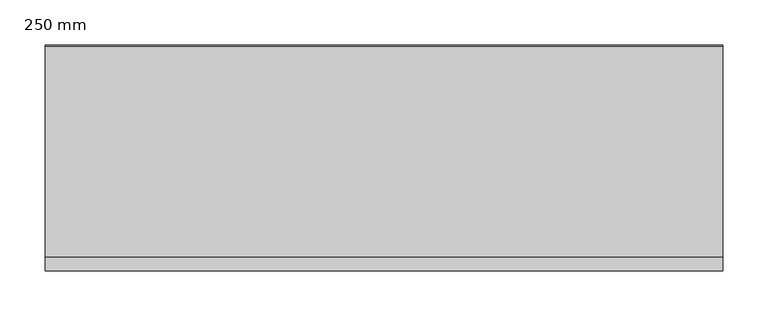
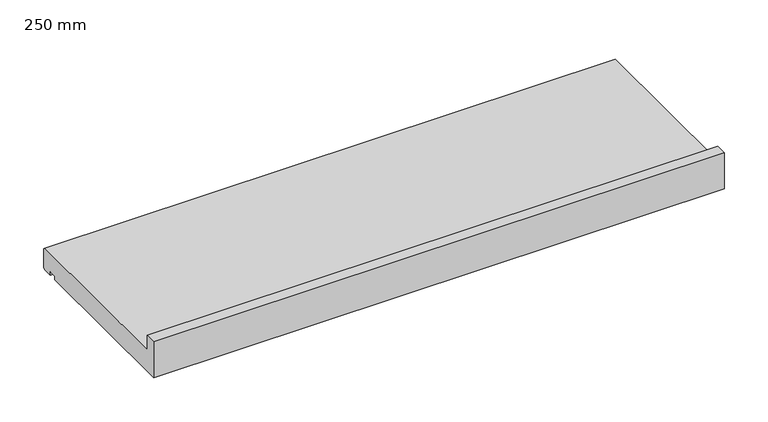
"""IFC4 building model written with IfcOpenShell, lengths in millimetres: proxy geometry, 400_35_NS_raamdorpel_natuursteen_klik : 250 mm."""

import ifcopenshell
import ifcopenshell.guid

model = None  # the IFC model being written
_history = None  # IfcOwnerHistory: only IFC2X3 demands one
_inside = {}  # id of a spatial element -> (the spatial element, [elements in it])
_under = {}  # id of a project, library or spatial element -> (it, [spatial elements below it])
_declared = {}  # id of a project -> (the project, [libraries it declares])
_typed = {}  # id of a type object -> (the type object, [elements of that type])
_made_of = {}  # id of a material, layer set ... -> (it, [elements and type objects made of it])


def new_model(schema):
    """Start an empty IFC model of exactly this schema.

    Asked for "IFC4X3", IfcOpenShell would pick the latest addendum, in which some entities
    have other attributes; the version numbers below select the first issue.
    IFC2X3 requires an IfcOwnerHistory on every rooted entity: one is made here for all.
    """
    global model, _history
    if schema == "IFC4X3":
        model = ifcopenshell.file(schema_version=(4, 3, 0, 0))
    else:
        model = ifcopenshell.file(schema=schema)
    _inside.clear()
    _under.clear()
    _declared.clear()
    _typed.clear()
    _made_of.clear()
    _history = None
    if model.schema == "IFC2X3":
        org = make("IfcOrganization", Name="unknown")
        user = make(
            "IfcPersonAndOrganization",
            ThePerson=make("IfcPerson", FamilyName="unknown"),
            TheOrganization=org,
        )
        app = make(
            "IfcApplication",
            ApplicationDeveloper=org,
            Version="unknown",
            ApplicationFullName="unknown",
            ApplicationIdentifier="unknown",
        )
        _history = make(
            "IfcOwnerHistory",
            OwningUser=user,
            OwningApplication=app,
            ChangeAction="ADDED",
            CreationDate=0,
        )
    return model


def make(cls, **values):
    """One entity of the class cls with the attributes given. An attribute that is None is left unset."""
    return model.create_entity(
        cls, **{name: value for name, value in values.items() if value is not None}
    )


def rooted(cls, **values):
    """An entity with a GlobalId (a new one), such as an element, a storey or a relation."""
    return make(cls, GlobalId=ifcopenshell.guid.new(), OwnerHistory=_history, **values)


def si_unit(unit_type, name, prefix=None):
    """IfcSIUnit, for example si_unit("LENGTHUNIT", "METRE", prefix="MILLI")."""
    return make("IfcSIUnit", UnitType=unit_type, Prefix=prefix, Name=name)


def assignment(units):
    """IfcUnitAssignment: the units of a project."""
    return None if units is None else make("IfcUnitAssignment", Units=units)


def point(xyz):
    """IfcCartesianPoint."""
    return None if xyz is None else make("IfcCartesianPoint", Coordinates=xyz)


def direction(xyz):
    """IfcDirection."""
    return None if xyz is None else make("IfcDirection", DirectionRatios=xyz)


def frame(location, z_axis=None, x_axis=None):
    """IfcAxis2Placement3D, a coordinate frame: its origin and axes. An axis left out is left unset."""
    return make(
        "IfcAxis2Placement3D",
        Location=point(location),
        Axis=direction(z_axis),
        RefDirection=direction(x_axis),
    )


def origin():
    """The frame at (0, 0, 0) with its axes left unset."""
    return frame((0.0, 0.0, 0.0))


def place(relative_to, where):
    """IfcLocalPlacement: puts the frame where relative to a parent placement (None: the world)."""
    return make(
        "IfcLocalPlacement", PlacementRelTo=relative_to, RelativePlacement=where
    )


def context(
    kind, dimensions, precision=None, world=None, true_north=None, identifier=None
):
    """IfcGeometricRepresentationContext, for example the 3D "Model" context."""
    return make(
        "IfcGeometricRepresentationContext",
        ContextIdentifier=identifier,
        ContextType=kind,
        CoordinateSpaceDimension=dimensions,
        Precision=precision,
        WorldCoordinateSystem=world,
        TrueNorth=true_north,
    )


def project(units=None, contexts=None):
    """IfcProject with its units and contexts."""
    return rooted(
        "IfcProject",
        Name="project",
        RepresentationContexts=contexts,
        UnitsInContext=assignment(units),
    )


def spatial(cls, under=None, at=None, **own):
    """A site, building, storey or space (cls), placed at a placement, below another one or the project."""
    s = rooted(cls, ObjectPlacement=at, **own)
    if under is not None:
        _under.setdefault(under.id(), (under, []))[1].append(s)
    return s


def polyline(points):
    """IfcPolyline through the points."""
    return make("IfcPolyline", Points=[point(p) for p in points])


def outline(outer, holes=None, kind="AREA"):
    """IfcArbitraryClosedProfileDef: a profile drawn as a closed curve; with holes, ...WithVoids."""
    if holes is None:
        return make("IfcArbitraryClosedProfileDef", ProfileType=kind, OuterCurve=outer)
    return make(
        "IfcArbitraryProfileDefWithVoids",
        ProfileType=kind,
        OuterCurve=outer,
        InnerCurves=holes,
    )


def extrude(swept, where, along, depth):
    """IfcExtrudedAreaSolid: the profile swept, set in the frame where, extruded along a direction by depth."""
    return make(
        "IfcExtrudedAreaSolid",
        SweptArea=swept,
        Position=where,
        ExtrudedDirection=direction(along),
        Depth=depth,
    )


def shape(context_of_items, identifier, shape_type, items):
    """IfcShapeRepresentation: the items that make up one representation, for example the "Body"."""
    return make(
        "IfcShapeRepresentation",
        ContextOfItems=context_of_items,
        RepresentationIdentifier=identifier,
        RepresentationType=shape_type,
        Items=items,
    )


def source(mapping_origin, context_of_items, identifier, shape_type, items):
    """IfcRepresentationMap: a shape defined once, which mapped items show again and again."""
    return make(
        "IfcRepresentationMap",
        MappingOrigin=mapping_origin,
        MappedRepresentation=shape(context_of_items, identifier, shape_type, items),
    )


def transform(
    local_origin,
    x_axis=None,
    y_axis=None,
    z_axis=None,
    scale=None,
    scale2=None,
    scale3=None,
    uniform=True,
):
    """IfcCartesianTransformationOperator3D, or its non-uniform kind. x_axis, y_axis, z_axis: its Axis1, 2, 3."""
    if uniform:
        return make(
            "IfcCartesianTransformationOperator3D",
            Axis1=direction(x_axis),
            Axis2=direction(y_axis),
            LocalOrigin=point(local_origin),
            Scale=scale,
            Axis3=direction(z_axis),
        )
    return make(
        "IfcCartesianTransformationOperator3DnonUniform",
        Axis1=direction(x_axis),
        Axis2=direction(y_axis),
        LocalOrigin=point(local_origin),
        Scale=scale,
        Axis3=direction(z_axis),
        Scale2=scale2,
        Scale3=scale3,
    )


def mapped(mapping_source, mapping_target):
    """IfcMappedItem: shows the shape of a source again, moved by a transform."""
    return make(
        "IfcMappedItem", MappingSource=mapping_source, MappingTarget=mapping_target
    )


def made_of(thing, what):
    """Note that an element or type object is made of a material, layer set ...; save() writes the relation."""
    if what is not None:
        _made_of.setdefault(what.id(), (what, []))[1].append(thing)
    return thing


def element(
    cls,
    number,
    at=None,
    inside=None,
    cuts=None,
    type_object=None,
    material=None,
    context=None,
    identifier="Body",
    shape_type=None,
    held_by="IfcProductDefinitionShape",
    body=None,
    shapes=None,
    **own,
):
    """One element of the class cls, such as IfcWall. Its Tag is "e" and its number.

    at: its placement. inside: the storey or other place that contains it. cuts: it is an
    opening in that element (IfcRelVoidsElement). A single representation is given by context,
    identifier, shape_type and body (its items); several are given by shapes. held_by: the class
    of the entity that holds the representations. save() writes the other relations.
    """
    e = rooted(cls, Tag="e%d" % number, ObjectPlacement=at, **own)
    if body is not None:
        shapes = [shape(context, identifier, shape_type, body)]
    if shapes is not None:
        e.Representation = make(held_by, Representations=shapes)
    if inside is not None:
        _inside.setdefault(inside.id(), (inside, []))[1].append(e)
    if cuts is not None:
        rooted(
            "IfcRelVoidsElement", RelatingBuildingElement=cuts, RelatedOpeningElement=e
        )
    if type_object is not None:
        _typed.setdefault(type_object.id(), (type_object, []))[1].append(e)
    return made_of(e, material)


def aggregate(whole, parts):
    """IfcRelAggregates: a whole, such as a stair, and the parts it consists of."""
    return rooted("IfcRelAggregates", RelatingObject=whole, RelatedObjects=parts)


def save(model, path):
    """Write the relations noted so far, then the file.

    IfcRelAggregates (storeys below a building ...), IfcRelContainedInSpatialStructure (elements
    in a storey), IfcRelDefinesByType, IfcRelAssociatesMaterial and IfcRelDeclares: one each for
    every whole, place, type object, material and project.
    """
    for whole, parts in _under.values():
        aggregate(whole, parts)
    for where, things in _inside.values():
        rooted(
            "IfcRelContainedInSpatialStructure",
            RelatedElements=things,
            RelatingStructure=where,
        )
    for kind, things in _typed.values():
        rooted("IfcRelDefinesByType", RelatedObjects=things, RelatingType=kind)
    for what, things in _made_of.values():
        rooted("IfcRelAssociatesMaterial", RelatedObjects=things, RelatingMaterial=what)
    for by, libraries in _declared.values():
        rooted("IfcRelDeclares", RelatingContext=by, RelatedDefinitions=libraries)
    model.write(path)


def proxy_250_mm_d05ddaf7(model_context):
    return source(origin(), model_context, "Body", "SweptSolid", [
        extrude(outline(polyline([(248.0, 30.0), (250.0, 28.0), (250.0, 2.0), (248.0, 0.0), (235.0, 0.0), (235.0, 5.0), (225.0, 5.0), (225.0, 0.0), (0.0, 0.0), (0.0, 50.0), (15.0, 50.0), (15.0, 30.0), (248.0, 30.0)])), frame((-375.0, 0.0, 0.0), z_axis=(1.0, 0.0, 0.0), x_axis=(0.0, 1.0, 0.0)), (0.0, 0.0, 1.0), 750.0),
    ])


if __name__ == "__main__":
    model = new_model("IFC4")
    model_context = context("Model", 3, world=origin())
    ifc_project = project(units=[si_unit("LENGTHUNIT", "METRE", prefix="MILLI")], contexts=[model_context])
    site = spatial("IfcSite", under=ifc_project)
    building = spatial("IfcBuilding", under=site)
    placement = place(None, origin())
    proxy_250_mm_shape = proxy_250_mm_d05ddaf7(model_context)
    element("IfcBuildingElementProxy", 1, Name="400_35_NS_raamdorpel_natuursteen_klik : 250 mm", ObjectType="400_35_NS_raamdorpel_natuursteen_klik : 250 mm", at=placement, inside=building, context=model_context, shape_type="MappedRepresentation", body=[
        mapped(proxy_250_mm_shape, transform((0.0, 0.0, 0.0), x_axis=(1.0, 0.0, 0.0), y_axis=(0.0, 1.0, 0.0), z_axis=(0.0, 0.0, 1.0))),
    ])
    save(model, "model.ifc")
